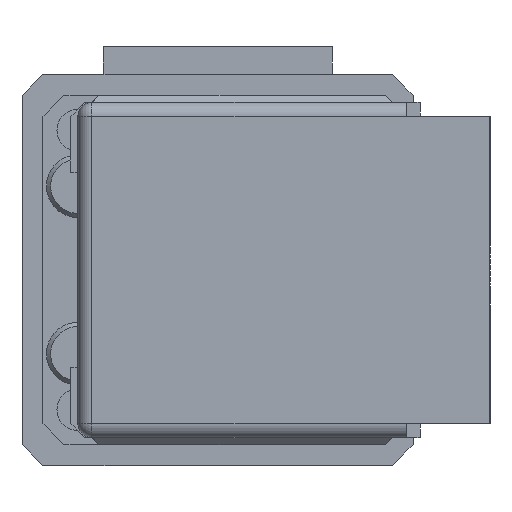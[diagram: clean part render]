
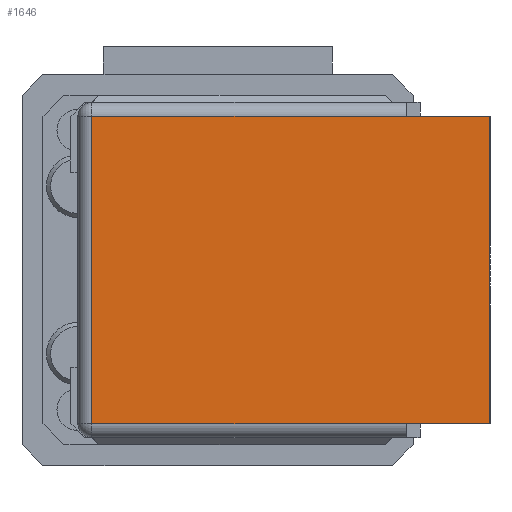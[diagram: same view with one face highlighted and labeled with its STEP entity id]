
A CAD part, left-side view. The second image highlights one B-rep face of the part: STEP entity #1646.
In plain terms, the highlighted planar face has unit normal (-1, 0, 0).
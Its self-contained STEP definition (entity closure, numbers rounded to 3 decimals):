
#270 = DIRECTION ( 'NONE',  ( 0., 0., -1. ) ) ;
#442 = VERTEX_POINT ( 'NONE', #1471 ) ;
#717 = ORIENTED_EDGE ( 'NONE', *, *, #4214, .T. ) ;
#783 = ORIENTED_EDGE ( 'NONE', *, *, #4062, .F. ) ;
#805 = VERTEX_POINT ( 'NONE', #5154 ) ;
#1066 = VERTEX_POINT ( 'NONE', #2978 ) ;
#1106 = FACE_OUTER_BOUND ( 'NONE', #1896, .T. ) ;
#1471 = CARTESIAN_POINT ( 'NONE',  ( 0., 6., 11. ) ) ;
#1508 = CARTESIAN_POINT ( 'NONE',  ( 0., 0., 11. ) ) ;
#1582 = CARTESIAN_POINT ( 'NONE',  ( 0., 6., 11. ) ) ;
#1639 = EDGE_CURVE ( 'NONE', #805, #4234, #6994, .T. ) ;
#1646 = ADVANCED_FACE ( 'NONE', ( #1106 ), #2068, .F. ) ;
#1763 = LINE ( 'NONE', #1582, #5788 ) ;
#1896 = EDGE_LOOP ( 'NONE', ( #717, #4558, #2757, #7000, #783, #4915 ) ) ;
#1917 = CARTESIAN_POINT ( 'NONE',  ( 0., 6., -11. ) ) ;
#2017 = EDGE_CURVE ( 'NONE', #4234, #1066, #2262, .T. ) ;
#2038 = DIRECTION ( 'NONE',  ( 0., -1., 0. ) ) ;
#2042 = CARTESIAN_POINT ( 'NONE',  ( 0., 6., 11. ) ) ;
#2068 = PLANE ( 'NONE',  #4304 ) ;
#2127 = DIRECTION ( 'NONE',  ( 1., 0., 0. ) ) ;
#2253 = DIRECTION ( 'NONE',  ( 0., 0., -1. ) ) ;
#2262 = LINE ( 'NONE', #7063, #5120 ) ;
#2660 = LINE ( 'NONE', #3694, #2841 ) ;
#2757 = ORIENTED_EDGE ( 'NONE', *, *, #2017, .T. ) ;
#2841 = VECTOR ( 'NONE', #270, 1000. ) ;
#2978 = CARTESIAN_POINT ( 'NONE',  ( 0., 0., -11. ) ) ;
#3213 = VERTEX_POINT ( 'NONE', #4198 ) ;
#3240 = DIRECTION ( 'NONE',  ( 0., 0., 1. ) ) ;
#3694 = CARTESIAN_POINT ( 'NONE',  ( 0., 28.5, 11. ) ) ;
#3738 = LINE ( 'NONE', #5844, #4898 ) ;
#3891 = DIRECTION ( 'NONE',  ( 0., 1., 0. ) ) ;
#4062 = EDGE_CURVE ( 'NONE', #442, #7174, #3738, .T. ) ;
#4198 = CARTESIAN_POINT ( 'NONE',  ( 0., 28.5, 11. ) ) ;
#4214 = EDGE_CURVE ( 'NONE', #3213, #805, #2660, .T. ) ;
#4234 = VERTEX_POINT ( 'NONE', #4282 ) ;
#4282 = CARTESIAN_POINT ( 'NONE',  ( 0., 6., -11. ) ) ;
#4304 = AXIS2_PLACEMENT_3D ( 'NONE', #2042, #2127, #2253 ) ;
#4374 = EDGE_CURVE ( 'NONE', #442, #3213, #1763, .T. ) ;
#4558 = ORIENTED_EDGE ( 'NONE', *, *, #1639, .T. ) ;
#4887 = LINE ( 'NONE', #1508, #6226 ) ;
#4898 = VECTOR ( 'NONE', #6404, 1000. ) ;
#4915 = ORIENTED_EDGE ( 'NONE', *, *, #4374, .T. ) ;
#5120 = VECTOR ( 'NONE', #7166, 1000. ) ;
#5154 = CARTESIAN_POINT ( 'NONE',  ( 0., 28.5, -11. ) ) ;
#5490 = VECTOR ( 'NONE', #2038, 1000. ) ;
#5632 = CARTESIAN_POINT ( 'NONE',  ( 0., 0., 11. ) ) ;
#5788 = VECTOR ( 'NONE', #3891, 1000. ) ;
#5844 = CARTESIAN_POINT ( 'NONE',  ( 0., 6., 11. ) ) ;
#6226 = VECTOR ( 'NONE', #3240, 1000. ) ;
#6404 = DIRECTION ( 'NONE',  ( 0., -1., 0. ) ) ;
#6571 = EDGE_CURVE ( 'NONE', #1066, #7174, #4887, .T. ) ;
#6994 = LINE ( 'NONE', #1917, #5490 ) ;
#7000 = ORIENTED_EDGE ( 'NONE', *, *, #6571, .T. ) ;
#7063 = CARTESIAN_POINT ( 'NONE',  ( 0., 6., -11. ) ) ;
#7166 = DIRECTION ( 'NONE',  ( 0., -1., 0. ) ) ;
#7174 = VERTEX_POINT ( 'NONE', #5632 ) ;
